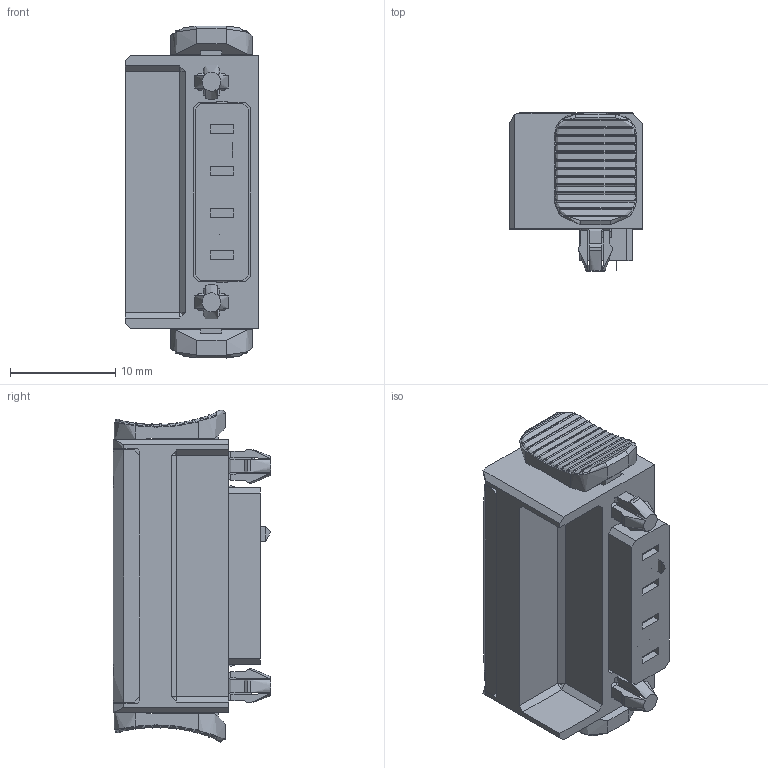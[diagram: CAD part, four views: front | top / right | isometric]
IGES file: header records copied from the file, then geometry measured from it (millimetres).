
Global section: file name: 21.04.212.113.2; native system: unknown; preprocessor: unknown; author: unknown; organization: unknown; date: 20221116.234517; units: millimetre
Bounding box: 12.7 x 15.02 x 31.62 mm (x, y, z)
Volume: 3137.6 mm3; surface area: 3007.3 mm2
Topology: 1 solids, 1 shells, 1019 faces, 2863 edges, 1830 vertices
Faces by surface type: bspline 1019
